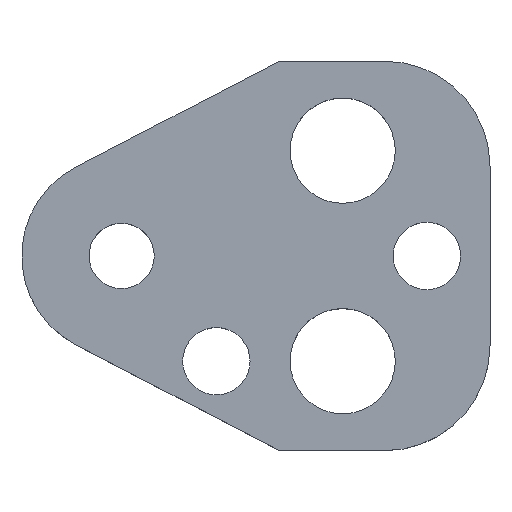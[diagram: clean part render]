
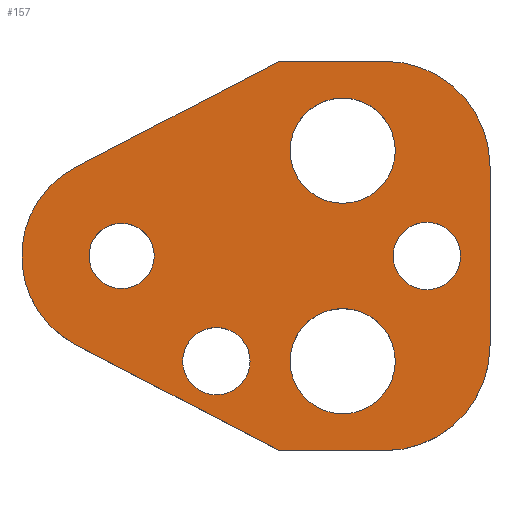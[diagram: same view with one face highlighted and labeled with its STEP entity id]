
A CAD part, top view. The second image highlights one B-rep face of the part: STEP entity #157.
In plain terms, the highlighted planar face has unit normal (0, 0, 1).
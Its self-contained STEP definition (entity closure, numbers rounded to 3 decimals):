
#103=FACE_BOUND('',#207,.T.);
#104=FACE_BOUND('',#208,.T.);
#105=FACE_BOUND('',#209,.T.);
#106=FACE_BOUND('',#210,.T.);
#107=FACE_BOUND('',#211,.T.);
#108=FACE_BOUND('',#212,.T.);
#122=CIRCLE('',#480,10.);
#124=CIRCLE('',#484,10.);
#127=CIRCLE('',#490,9.5);
#138=CIRCLE('',#503,3.2);
#139=CIRCLE('',#504,3.2);
#140=CIRCLE('',#505,5.);
#141=CIRCLE('',#506,5.);
#142=CIRCLE('',#507,5.);
#143=CIRCLE('',#508,5.);
#144=CIRCLE('',#509,3.2);
#145=CIRCLE('',#510,3.2);
#146=CIRCLE('',#511,3.1);
#147=CIRCLE('',#512,3.1);
#157=ADVANCED_FACE('',(#103,#104,#105,#106,#107,#108),#174,.T.);
#174=PLANE('',#513);
#207=EDGE_LOOP('',(#273,#274,#275,#276,#277,#278,#279,#280));
#208=EDGE_LOOP('',(#281,#282));
#209=EDGE_LOOP('',(#283,#284));
#210=EDGE_LOOP('',(#285,#286));
#211=EDGE_LOOP('',(#287,#288));
#212=EDGE_LOOP('',(#289,#290));
#273=ORIENTED_EDGE('',*,*,#368,.T.);
#274=ORIENTED_EDGE('',*,*,#372,.T.);
#275=ORIENTED_EDGE('',*,*,#375,.T.);
#276=ORIENTED_EDGE('',*,*,#378,.T.);
#277=ORIENTED_EDGE('',*,*,#381,.T.);
#278=ORIENTED_EDGE('',*,*,#384,.T.);
#279=ORIENTED_EDGE('',*,*,#387,.T.);
#280=ORIENTED_EDGE('',*,*,#390,.T.);
#281=ORIENTED_EDGE('',*,*,#401,.T.);
#282=ORIENTED_EDGE('',*,*,#402,.T.);
#283=ORIENTED_EDGE('',*,*,#403,.T.);
#284=ORIENTED_EDGE('',*,*,#404,.T.);
#285=ORIENTED_EDGE('',*,*,#405,.T.);
#286=ORIENTED_EDGE('',*,*,#406,.T.);
#287=ORIENTED_EDGE('',*,*,#407,.T.);
#288=ORIENTED_EDGE('',*,*,#408,.T.);
#289=ORIENTED_EDGE('',*,*,#409,.T.);
#290=ORIENTED_EDGE('',*,*,#410,.T.);
#332=VERTEX_POINT('',#649);
#333=VERTEX_POINT('',#651);
#336=VERTEX_POINT('',#658);
#338=VERTEX_POINT('',#664);
#340=VERTEX_POINT('',#670);
#342=VERTEX_POINT('',#676);
#344=VERTEX_POINT('',#682);
#346=VERTEX_POINT('',#688);
#357=VERTEX_POINT('',#717);
#358=VERTEX_POINT('',#718);
#359=VERTEX_POINT('',#721);
#360=VERTEX_POINT('',#722);
#361=VERTEX_POINT('',#725);
#362=VERTEX_POINT('',#726);
#363=VERTEX_POINT('',#729);
#364=VERTEX_POINT('',#730);
#365=VERTEX_POINT('',#733);
#366=VERTEX_POINT('',#734);
#368=EDGE_CURVE('',#333,#332,#422,.T.);
#372=EDGE_CURVE('',#332,#336,#426,.T.);
#375=EDGE_CURVE('',#336,#338,#122,.T.);
#378=EDGE_CURVE('',#338,#340,#430,.T.);
#381=EDGE_CURVE('',#340,#342,#124,.T.);
#384=EDGE_CURVE('',#342,#344,#434,.T.);
#387=EDGE_CURVE('',#344,#346,#437,.T.);
#390=EDGE_CURVE('',#346,#333,#127,.T.);
#401=EDGE_CURVE('',#357,#358,#138,.T.);
#402=EDGE_CURVE('',#358,#357,#139,.T.);
#403=EDGE_CURVE('',#359,#360,#140,.T.);
#404=EDGE_CURVE('',#360,#359,#141,.T.);
#405=EDGE_CURVE('',#361,#362,#142,.T.);
#406=EDGE_CURVE('',#362,#361,#143,.T.);
#407=EDGE_CURVE('',#363,#364,#144,.T.);
#408=EDGE_CURVE('',#364,#363,#145,.T.);
#409=EDGE_CURVE('',#365,#366,#146,.T.);
#410=EDGE_CURVE('',#366,#365,#147,.T.);
#422=LINE('',#650,#450);
#426=LINE('',#659,#454);
#430=LINE('',#671,#458);
#434=LINE('',#683,#462);
#437=LINE('',#689,#465);
#450=VECTOR('',#527,1.);
#454=VECTOR('',#533,1.);
#458=VECTOR('',#545,1.);
#462=VECTOR('',#557,1.);
#465=VECTOR('',#562,1.);
#480=AXIS2_PLACEMENT_3D('',#665,#538,#539);
#484=AXIS2_PLACEMENT_3D('',#677,#550,#551);
#490=AXIS2_PLACEMENT_3D('',#693,#568,#569);
#503=AXIS2_PLACEMENT_3D('',#716,#594,#595);
#504=AXIS2_PLACEMENT_3D('',#719,#596,#597);
#505=AXIS2_PLACEMENT_3D('',#720,#598,#599);
#506=AXIS2_PLACEMENT_3D('',#723,#600,#601);
#507=AXIS2_PLACEMENT_3D('',#724,#602,#603);
#508=AXIS2_PLACEMENT_3D('',#727,#604,#605);
#509=AXIS2_PLACEMENT_3D('',#728,#606,#607);
#510=AXIS2_PLACEMENT_3D('',#731,#608,#609);
#511=AXIS2_PLACEMENT_3D('',#732,#610,#611);
#512=AXIS2_PLACEMENT_3D('',#735,#612,#613);
#513=AXIS2_PLACEMENT_3D('',#736,#614,#615);
#527=DIRECTION('',(0.887,-0.461,0.));
#533=DIRECTION('',(1.,0.,0.));
#538=DIRECTION('',(0.,0.,1.));
#539=DIRECTION('',(-0.707,0.707,0.));
#545=DIRECTION('',(0.,1.,0.));
#550=DIRECTION('',(0.,0.,1.));
#551=DIRECTION('',(-0.707,-0.707,0.));
#557=DIRECTION('',(-1.,0.,0.));
#562=DIRECTION('',(-0.887,-0.461,0.));
#568=DIRECTION('',(0.,0.,1.));
#569=DIRECTION('',(1.,0.,0.));
#594=DIRECTION('',(0.,0.,-1.));
#595=DIRECTION('',(-1.,0.,0.));
#596=DIRECTION('',(0.,0.,-1.));
#597=DIRECTION('',(1.,0.,0.));
#598=DIRECTION('',(0.,0.,-1.));
#599=DIRECTION('',(-1.,0.,0.));
#600=DIRECTION('',(0.,0.,-1.));
#601=DIRECTION('',(1.,0.,0.));
#602=DIRECTION('',(0.,0.,-1.));
#603=DIRECTION('',(-1.,0.,0.));
#604=DIRECTION('',(0.,0.,-1.));
#605=DIRECTION('',(1.,0.,0.));
#606=DIRECTION('',(0.,0.,-1.));
#607=DIRECTION('',(-1.,0.,0.));
#608=DIRECTION('',(0.,0.,-1.));
#609=DIRECTION('',(1.,0.,0.));
#610=DIRECTION('',(0.,0.,-1.));
#611=DIRECTION('',(-1.,0.,0.));
#612=DIRECTION('',(0.,0.,-1.));
#613=DIRECTION('',(1.,0.,0.));
#614=DIRECTION('',(0.,0.,1.));
#615=DIRECTION('',(0.887,-0.461,0.));
#649=CARTESIAN_POINT('',(15.,-18.5,8.));
#650=CARTESIAN_POINT('',(15.,-18.5,8.));
#651=CARTESIAN_POINT('',(-4.38,-8.43,8.));
#658=CARTESIAN_POINT('',(25.,-18.5,8.));
#659=CARTESIAN_POINT('',(15.,-18.5,8.));
#664=CARTESIAN_POINT('',(35.,-8.5,8.));
#665=CARTESIAN_POINT('',(25.,-8.5,8.));
#670=CARTESIAN_POINT('',(35.,8.5,8.));
#671=CARTESIAN_POINT('',(35.,8.5,8.));
#676=CARTESIAN_POINT('',(25.,18.5,8.));
#677=CARTESIAN_POINT('',(25.,8.5,8.));
#682=CARTESIAN_POINT('',(15.,18.5,8.));
#683=CARTESIAN_POINT('',(15.,18.5,8.));
#688=CARTESIAN_POINT('',(-4.38,8.43,8.));
#689=CARTESIAN_POINT('',(15.,18.5,8.));
#693=CARTESIAN_POINT('',(0.,0.,8.));
#716=CARTESIAN_POINT('',(29.,0.,8.));
#717=CARTESIAN_POINT('',(29.,3.2,8.));
#718=CARTESIAN_POINT('',(29.,-3.2,8.));
#719=CARTESIAN_POINT('',(29.,0.,8.));
#720=CARTESIAN_POINT('',(21.,10.,8.));
#721=CARTESIAN_POINT('',(21.,15.,8.));
#722=CARTESIAN_POINT('',(21.,5.,8.));
#723=CARTESIAN_POINT('',(21.,10.,8.));
#724=CARTESIAN_POINT('',(21.,-10.,8.));
#725=CARTESIAN_POINT('',(21.,-5.,8.));
#726=CARTESIAN_POINT('',(21.,-15.,8.));
#727=CARTESIAN_POINT('',(21.,-10.,8.));
#728=CARTESIAN_POINT('',(9.,-10.,8.));
#729=CARTESIAN_POINT('',(9.,-6.8,8.));
#730=CARTESIAN_POINT('',(9.,-13.2,8.));
#731=CARTESIAN_POINT('',(9.,-10.,8.));
#732=CARTESIAN_POINT('',(0.,0.,8.));
#733=CARTESIAN_POINT('',(0.,3.1,8.));
#734=CARTESIAN_POINT('',(0.,-3.1,8.));
#735=CARTESIAN_POINT('',(0.,0.,8.));
#736=CARTESIAN_POINT('',(-4.38,-8.43,8.));
